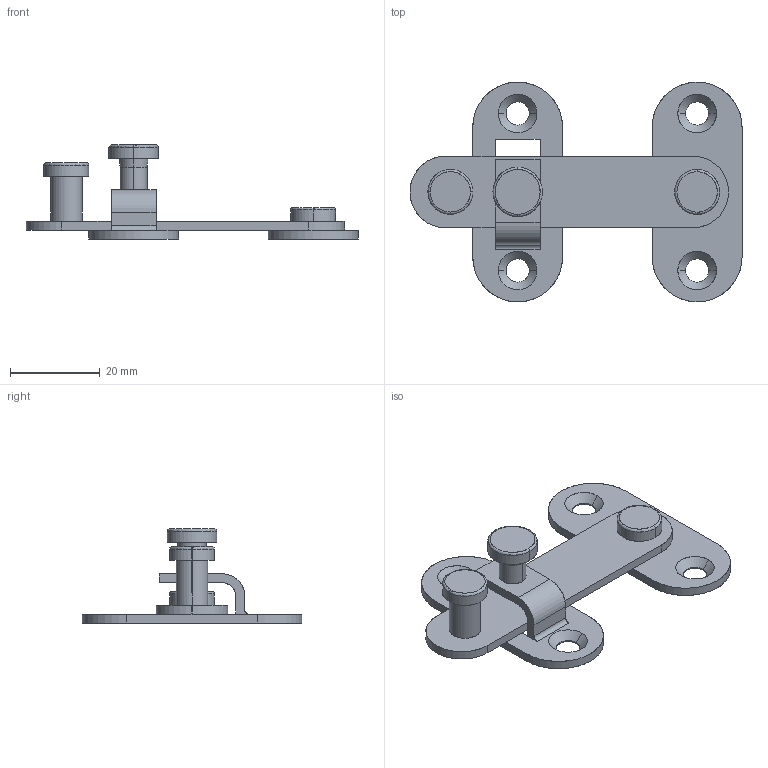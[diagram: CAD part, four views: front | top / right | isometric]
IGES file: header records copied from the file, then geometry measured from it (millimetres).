
Start section: SolidWorks IGES file using analytic representation for surfaces
Global section: file name: C:\Users\sr-d12\Desktop\新しいフォルダー (4)\J3UK.IGS; native system: SolidWorks 2019; preprocessor: SolidWorks 2019; author: nakano; date: 230703.095848; units: millimetre
Bounding box: 74 x 49 x 21 mm (x, y, z)
Surface area: 7558.7 mm2 (no closed solid volume)
Topology: 0 solids, 0 shells, 77 faces, 1172 edges, 1172 vertices
Faces by surface type: revolution 43, bspline 34
